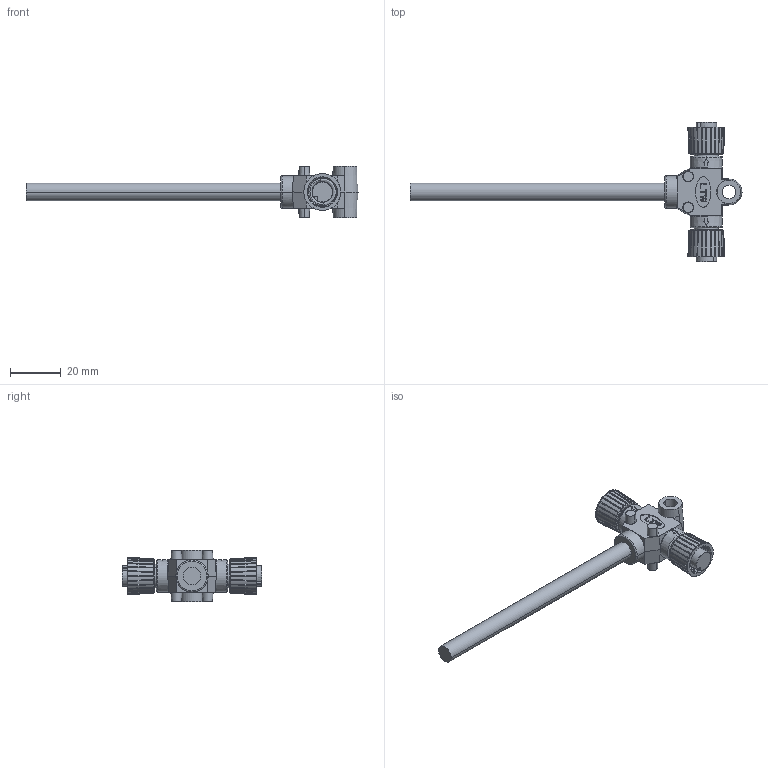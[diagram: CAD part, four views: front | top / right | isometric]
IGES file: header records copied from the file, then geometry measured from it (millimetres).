
Start section:  PTC IGES file: MC-050500-FF0-TSBXX.igs
Global section: file name: MC-050500-FF0-TSBXX.igs; native system: Creo Parametric by Parametric Technology Corporation; preprocessor: 2013050; author: LT0842; organization: Unknown; date: 20131129.162811; units: millimetre
Bounding box: 130.32 x 54.8 x 20.05 mm (x, y, z)
Volume: 13381.2 mm3; surface area: 8610.6 mm2
Topology: 1 solids, 1 shells, 716 faces, 1883 edges, 1188 vertices
Faces by surface type: bspline 420, revolution 296
